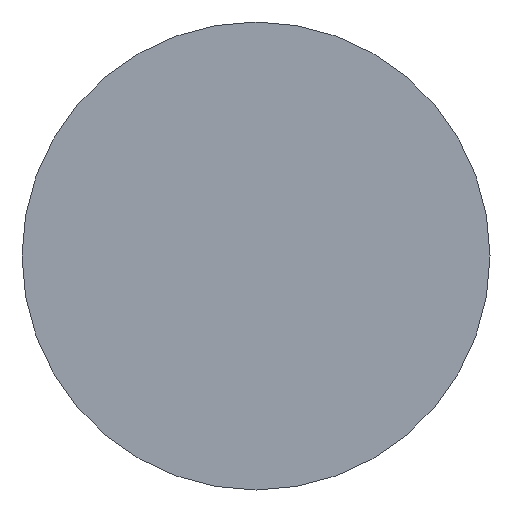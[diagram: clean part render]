
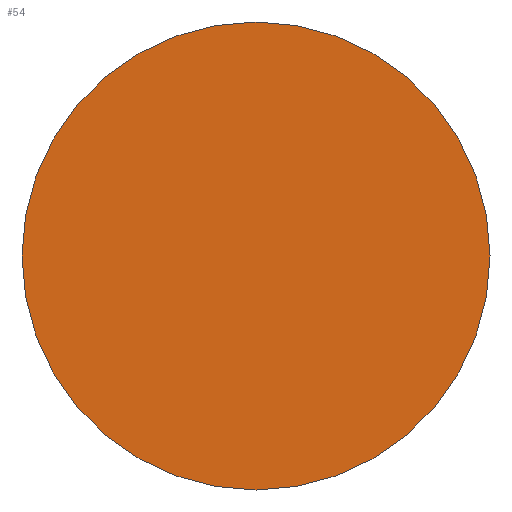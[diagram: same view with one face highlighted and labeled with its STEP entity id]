
A CAD part, left-side view. The second image highlights one B-rep face of the part: STEP entity #54.
In plain terms, the highlighted planar face has unit normal (-1, 0, 0).
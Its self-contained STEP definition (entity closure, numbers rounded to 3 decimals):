
#9 = DIRECTION ( 'NONE',  ( 1., 0., 0. ) ) ;
#22 = AXIS2_PLACEMENT_3D ( 'NONE', #51, #127, #148 ) ;
#23 = CIRCLE ( 'NONE', #240, 6. ) ;
#47 = DIRECTION ( 'NONE',  ( 0., 1., 0. ) ) ;
#51 = CARTESIAN_POINT ( 'NONE',  ( 0., 0., 0. ) ) ;
#54 = ADVANCED_FACE ( 'NONE', ( #88 ), #246, .T. ) ;
#55 = CARTESIAN_POINT ( 'NONE',  ( 0., -6., 0. ) ) ;
#60 = VERTEX_POINT ( 'NONE', #68 ) ;
#64 = ORIENTED_EDGE ( 'NONE', *, *, #183, .F. ) ;
#68 = CARTESIAN_POINT ( 'NONE',  ( 0., 6., 0. ) ) ;
#70 = CARTESIAN_POINT ( 'NONE',  ( 0., 0., 0. ) ) ;
#88 = FACE_OUTER_BOUND ( 'NONE', #103, .T. ) ;
#90 = VERTEX_POINT ( 'NONE', #55 ) ;
#94 = CARTESIAN_POINT ( 'NONE',  ( 0., 0., 0. ) ) ;
#103 = EDGE_LOOP ( 'NONE', ( #64, #268 ) ) ;
#108 = CIRCLE ( 'NONE', #222, 6. ) ;
#127 = DIRECTION ( 'NONE',  ( -1., 0., 0. ) ) ;
#148 = DIRECTION ( 'NONE',  ( 0., -1., 0. ) ) ;
#174 = DIRECTION ( 'NONE',  ( 0., 1., 0. ) ) ;
#183 = EDGE_CURVE ( 'NONE', #60, #90, #23, .T. ) ;
#203 = EDGE_CURVE ( 'NONE', #90, #60, #108, .T. ) ;
#214 = DIRECTION ( 'NONE',  ( 1., 0., 0. ) ) ;
#222 = AXIS2_PLACEMENT_3D ( 'NONE', #94, #9, #47 ) ;
#240 = AXIS2_PLACEMENT_3D ( 'NONE', #70, #214, #174 ) ;
#246 = PLANE ( 'NONE',  #22 ) ;
#268 = ORIENTED_EDGE ( 'NONE', *, *, #203, .F. ) ;
